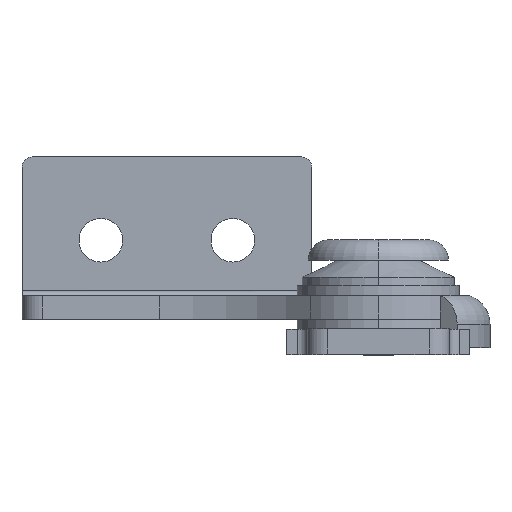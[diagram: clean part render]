
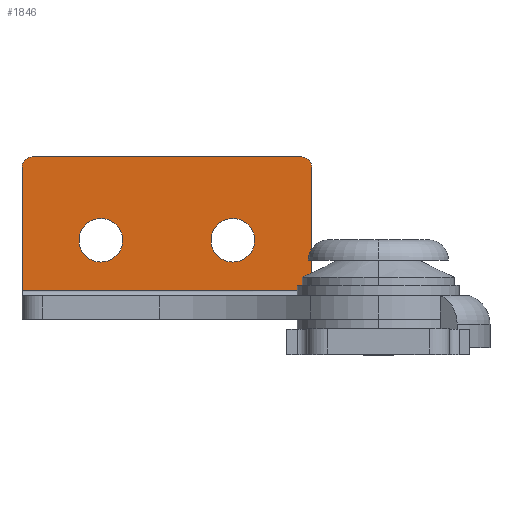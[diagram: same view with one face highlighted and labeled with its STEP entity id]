
A CAD part, top view. The second image highlights one B-rep face of the part: STEP entity #1846.
In plain terms, the highlighted planar face has unit normal (0, 0, 1) as drawn and (0, 0, -1) by its records, which use the part's own axes.
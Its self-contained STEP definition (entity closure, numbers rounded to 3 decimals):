
#38 = VERTEX_POINT ( 'NONE', #178 ) ;
#69 = EDGE_CURVE ( 'NONE', #2522, #555, #525, .T. ) ;
#83 = DIRECTION ( 'NONE',  ( 0., 0., 1. ) ) ;
#159 = FACE_BOUND ( 'NONE', #1075, .T. ) ;
#166 = VECTOR ( 'NONE', #1388, 1000. ) ;
#178 = CARTESIAN_POINT ( 'NONE',  ( 12.178, 10.6, 7.926 ) ) ;
#242 = VERTEX_POINT ( 'NONE', #1969 ) ;
#256 = ORIENTED_EDGE ( 'NONE', *, *, #1332, .F. ) ;
#259 = CIRCLE ( 'NONE', #607, 2.15 ) ;
#288 = DIRECTION ( 'NONE',  ( 1., 0., 0. ) ) ;
#298 = ORIENTED_EDGE ( 'NONE', *, *, #1196, .T. ) ;
#346 = VERTEX_POINT ( 'NONE', #745 ) ;
#377 = DIRECTION ( 'NONE',  ( 1., 0., 0. ) ) ;
#385 = CIRCLE ( 'NONE', #634, 2.15 ) ;
#400 = VERTEX_POINT ( 'NONE', #1093 ) ;
#435 = CARTESIAN_POINT ( 'NONE',  ( 35.092, 2.8, 7.926 ) ) ;
#503 = LINE ( 'NONE', #2559, #1459 ) ;
#525 = CIRCLE ( 'NONE', #1153, 1. ) ;
#545 = AXIS2_PLACEMENT_3D ( 'NONE', #2296, #2498, #907 ) ;
#555 = VERTEX_POINT ( 'NONE', #687 ) ;
#570 = DIRECTION ( 'NONE',  ( 0., 0., -1. ) ) ;
#607 = AXIS2_PLACEMENT_3D ( 'NONE', #1517, #2350, #2311 ) ;
#634 = AXIS2_PLACEMENT_3D ( 'NONE', #2133, #1471, #288 ) ;
#635 = EDGE_CURVE ( 'NONE', #1648, #2387, #503, .T. ) ;
#687 = CARTESIAN_POINT ( 'NONE',  ( 35.092, 17.8, 7.926 ) ) ;
#723 = DIRECTION ( 'NONE',  ( 0., -1., 0. ) ) ;
#740 = CIRCLE ( 'NONE', #1496, 2.15 ) ;
#745 = CARTESIAN_POINT ( 'NONE',  ( 29.478, 10.6, 7.926 ) ) ;
#764 = CIRCLE ( 'NONE', #545, 2.15 ) ;
#765 = DIRECTION ( 'NONE',  ( -1., 0., 0. ) ) ;
#803 = LINE ( 'NONE', #997, #166 ) ;
#898 = DIRECTION ( 'NONE',  ( 1., 0., 0. ) ) ;
#906 = EDGE_CURVE ( 'NONE', #346, #2057, #740, .T. ) ;
#907 = DIRECTION ( 'NONE',  ( 1., 0., 0. ) ) ;
#950 = CARTESIAN_POINT ( 'NONE',  ( 34.092, 18.8, 7.926 ) ) ;
#951 = EDGE_LOOP ( 'NONE', ( #2125, #1832 ) ) ;
#971 = AXIS2_PLACEMENT_3D ( 'NONE', #2436, #570, #1836 ) ;
#982 = EDGE_CURVE ( 'NONE', #400, #555, #2021, .T. ) ;
#997 = CARTESIAN_POINT ( 'NONE',  ( 6.563, 5.628, 7.926 ) ) ;
#1003 = PLANE ( 'NONE',  #1781 ) ;
#1075 = EDGE_LOOP ( 'NONE', ( #1741, #298 ) ) ;
#1093 = CARTESIAN_POINT ( 'NONE',  ( 35.092, 5.628, 7.926 ) ) ;
#1109 = CARTESIAN_POINT ( 'NONE',  ( 6.563, 17.8, 7.926 ) ) ;
#1153 = AXIS2_PLACEMENT_3D ( 'NONE', #1409, #1633, #2461 ) ;
#1196 = EDGE_CURVE ( 'NONE', #2057, #346, #259, .T. ) ;
#1256 = CARTESIAN_POINT ( 'NONE',  ( 16.478, 10.6, 7.926 ) ) ;
#1279 = VECTOR ( 'NONE', #765, 1000. ) ;
#1332 = EDGE_CURVE ( 'NONE', #2522, #242, #2601, .T. ) ;
#1359 = EDGE_LOOP ( 'NONE', ( #256, #1594, #1983, #1553, #2441, #2332 ) ) ;
#1370 = EDGE_CURVE ( 'NONE', #400, #2387, #803, .T. ) ;
#1374 = DIRECTION ( 'NONE',  ( 0., 0., 1. ) ) ;
#1388 = DIRECTION ( 'NONE',  ( -1., 0., 0. ) ) ;
#1409 = CARTESIAN_POINT ( 'NONE',  ( 34.092, 17.8, 7.926 ) ) ;
#1416 = CARTESIAN_POINT ( 'NONE',  ( 0., 0., 7.926 ) ) ;
#1459 = VECTOR ( 'NONE', #723, 1000. ) ;
#1471 = DIRECTION ( 'NONE',  ( 0., 0., 1. ) ) ;
#1496 = AXIS2_PLACEMENT_3D ( 'NONE', #1916, #83, #898 ) ;
#1517 = CARTESIAN_POINT ( 'NONE',  ( 27.328, 10.6, 7.926 ) ) ;
#1530 = CARTESIAN_POINT ( 'NONE',  ( 6.563, 5.628, 7.926 ) ) ;
#1534 = VERTEX_POINT ( 'NONE', #1256 ) ;
#1553 = ORIENTED_EDGE ( 'NONE', *, *, #1370, .T. ) ;
#1556 = CARTESIAN_POINT ( 'NONE',  ( 35.092, 18.8, 7.926 ) ) ;
#1577 = EDGE_CURVE ( 'NONE', #38, #1534, #385, .T. ) ;
#1594 = ORIENTED_EDGE ( 'NONE', *, *, #69, .T. ) ;
#1606 = EDGE_CURVE ( 'NONE', #1534, #38, #764, .T. ) ;
#1633 = DIRECTION ( 'NONE',  ( 0., 0., -1. ) ) ;
#1648 = VERTEX_POINT ( 'NONE', #1109 ) ;
#1741 = ORIENTED_EDGE ( 'NONE', *, *, #906, .T. ) ;
#1781 = AXIS2_PLACEMENT_3D ( 'NONE', #1416, #1374, #377 ) ;
#1832 = ORIENTED_EDGE ( 'NONE', *, *, #1577, .T. ) ;
#1836 = DIRECTION ( 'NONE',  ( 1., 0., 0. ) ) ;
#1840 = VECTOR ( 'NONE', #2460, 1000. ) ;
#1846 = ADVANCED_FACE ( 'NONE', ( #2228, #159, #2625 ), #1003, .F. ) ;
#1879 = CARTESIAN_POINT ( 'NONE',  ( 25.178, 10.6, 7.926 ) ) ;
#1916 = CARTESIAN_POINT ( 'NONE',  ( 27.328, 10.6, 7.926 ) ) ;
#1969 = CARTESIAN_POINT ( 'NONE',  ( 7.563, 18.8, 7.926 ) ) ;
#1983 = ORIENTED_EDGE ( 'NONE', *, *, #982, .F. ) ;
#2021 = LINE ( 'NONE', #435, #1840 ) ;
#2057 = VERTEX_POINT ( 'NONE', #1879 ) ;
#2125 = ORIENTED_EDGE ( 'NONE', *, *, #1606, .T. ) ;
#2133 = CARTESIAN_POINT ( 'NONE',  ( 14.328, 10.6, 7.926 ) ) ;
#2228 = FACE_BOUND ( 'NONE', #951, .T. ) ;
#2249 = EDGE_CURVE ( 'NONE', #1648, #242, #2527, .T. ) ;
#2296 = CARTESIAN_POINT ( 'NONE',  ( 14.328, 10.6, 7.926 ) ) ;
#2311 = DIRECTION ( 'NONE',  ( 1., 0., 0. ) ) ;
#2332 = ORIENTED_EDGE ( 'NONE', *, *, #2249, .T. ) ;
#2350 = DIRECTION ( 'NONE',  ( 0., 0., 1. ) ) ;
#2387 = VERTEX_POINT ( 'NONE', #1530 ) ;
#2436 = CARTESIAN_POINT ( 'NONE',  ( 7.563, 17.8, 7.926 ) ) ;
#2441 = ORIENTED_EDGE ( 'NONE', *, *, #635, .F. ) ;
#2460 = DIRECTION ( 'NONE',  ( 0., 1., 0. ) ) ;
#2461 = DIRECTION ( 'NONE',  ( 1., 0., 0. ) ) ;
#2498 = DIRECTION ( 'NONE',  ( 0., 0., 1. ) ) ;
#2522 = VERTEX_POINT ( 'NONE', #950 ) ;
#2527 = CIRCLE ( 'NONE', #971, 1. ) ;
#2559 = CARTESIAN_POINT ( 'NONE',  ( 6.563, 2.8, 7.926 ) ) ;
#2601 = LINE ( 'NONE', #1556, #1279 ) ;
#2625 = FACE_OUTER_BOUND ( 'NONE', #1359, .T. ) ;
